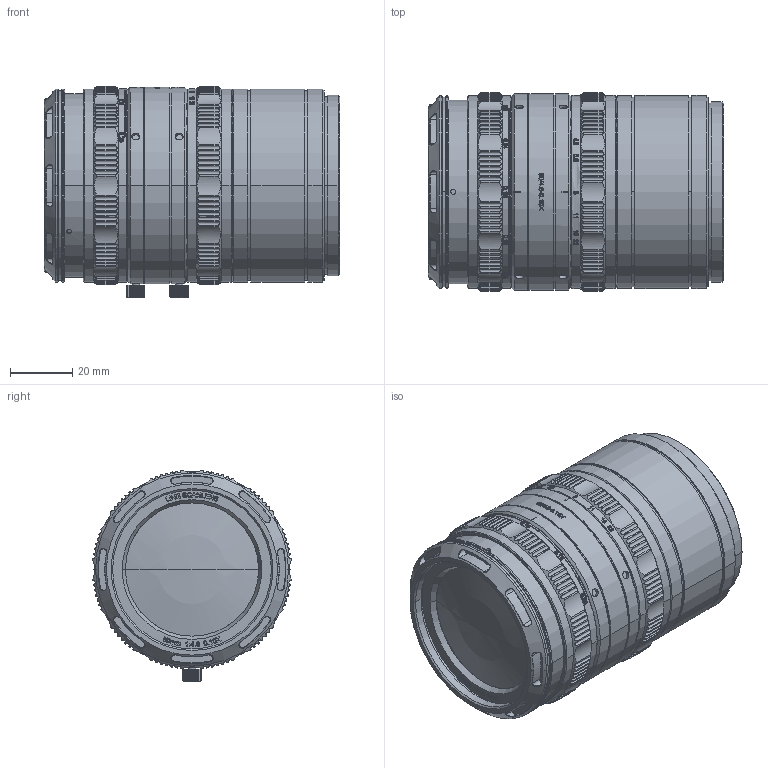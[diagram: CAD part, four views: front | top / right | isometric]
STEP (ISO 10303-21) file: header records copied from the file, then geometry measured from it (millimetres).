
FILE_DESCRIPTION((''),'2;1');
FILE_NAME('OPT-MCT5048-3D0001','2021-09-17T14:46:46',('SCI-X3'),(''),'CREO PARAMETRIC BY PTC INC, 2019224','CREO PARAMETRIC BY PTC INC, 2019224','');
FILE_SCHEMA(('AUTOMOTIVE_DESIGN { 1 0 10303 214 1 1 1 1 }'));
Length unit declared in the file: millimetre
Products named in the file (1): OPT-MCT5048-3D0001
Bounding box: 94.78 x 63.71 x 67.85 mm (x, y, z)
Volume: 251484 mm3; surface area: 33163.1 mm2
Topology: 1 solids, 1 shells, 2186 faces, 6190 edges, 4162 vertices
Faces by surface type: cylinder 758, plane 540, bspline 486, extrusion 326, cone 66, torus 6, sphere 4
Entity records: 105719 total; most frequent: CARTESIAN_POINT 50846, ORIENTED_EDGE 12372, DIRECTION 8070, EDGE_CURVE 6186, VERTEX_POINT 4162, VECTOR 2944, B_SPLINE_CURVE_WITH_KNOTS 2706, LINE 2618
